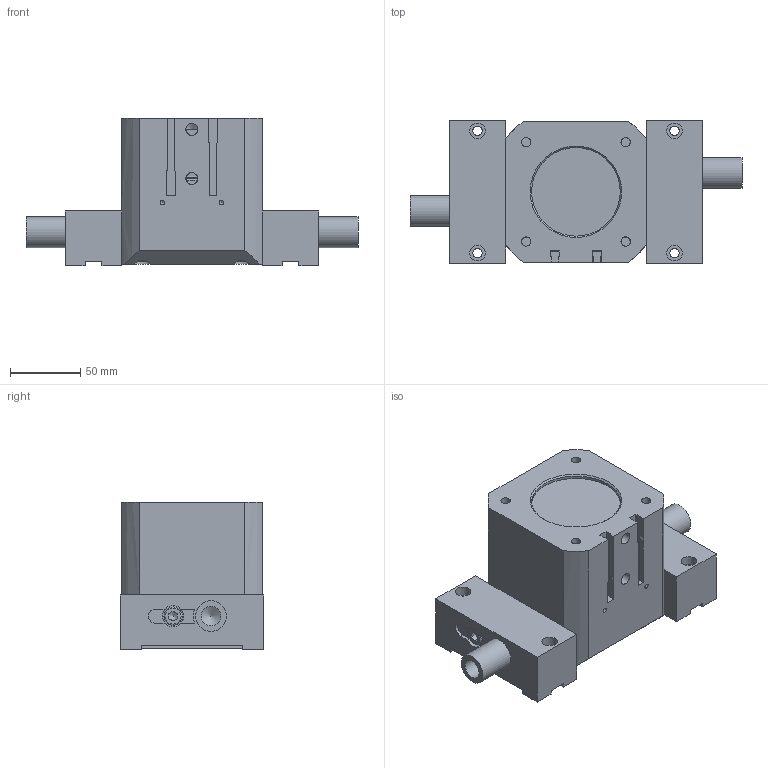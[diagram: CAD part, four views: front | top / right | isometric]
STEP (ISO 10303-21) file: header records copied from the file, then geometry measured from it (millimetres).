
FILE_DESCRIPTION((''),'2;1');
FILE_NAME('T:\CAD\Standard\Daten\3D-Datenbank\GP\4 - 3D-CAD-Daten GP 050-125\GP125\step-Daten\G-GP125-l2-GÖ+UB closed.stp','2013-11-07T13:51:09',('Dirk'),(''),'Autodesk Inventor 2011','Autodesk Inventor 2011','');
FILE_SCHEMA(('AUTOMOTIVE_DESIGN { 1 0 10303 214 1 1 1 1 }'));
Length unit declared in the file: millimetre
Products named in the file (1): Bauteil81
Bounding box: 236 x 102 x 105 mm (x, y, z)
Volume: 1131554.5 mm3; surface area: 185910.9 mm2
Topology: 1 solids, 20 shells, 429 faces, 1078 edges, 690 vertices
Faces by surface type: plane 236, cylinder 123, cone 36, torus 24, bspline 10
Full cylindrical faces by diameter (mm): 3.242 x2, 6.647 x10, 8 x6, 8.566 x2, 9 x6, 10.106 x1, 11 x4, 12 x1, 13 x7, 14 x2, 15 x8, 22 x4, 24 x1, 25 x7, 28 x1, 37 x1, 52 x1, 60 x1, 63 x1, 70.2 x1, 77.1 x2, 80 x5
Entity records: 13863 total; most frequent: CARTESIAN_POINT 4033, DIRECTION 1923, ORIENTED_EDGE 1756, EDGE_CURVE 878, AXIS2_PLACEMENT_3D 739, EDGE_LOOP 626, VERTEX_POINT 624, VECTOR 445
